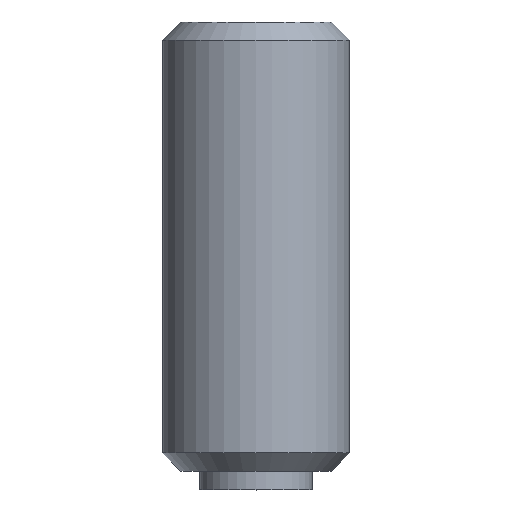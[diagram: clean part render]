
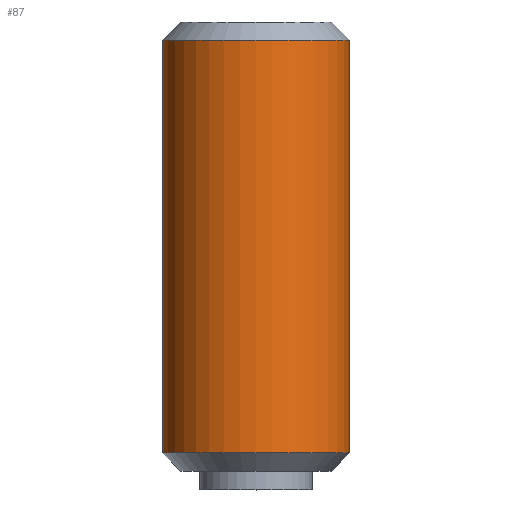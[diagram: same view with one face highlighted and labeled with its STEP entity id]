
A CAD part, top view. The second image highlights one B-rep face of the part: STEP entity #87.
In plain terms, the highlighted cylindrical face has radius 2.5 mm (diameter 5 mm), a full revolution.
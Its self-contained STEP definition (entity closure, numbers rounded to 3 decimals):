
#87 = ADVANCED_FACE( '', ( #118, #119 ), #120, .T. );
#118 = FACE_OUTER_BOUND( '', #152, .T. );
#119 = FACE_OUTER_BOUND( '', #153, .T. );
#120 = CYLINDRICAL_SURFACE( '', #154, 2.5 );
#152 = EDGE_LOOP( '', ( #238 ) );
#153 = EDGE_LOOP( '', ( #239 ) );
#154 = AXIS2_PLACEMENT_3D( '', #240, #241, #242 );
#238 = ORIENTED_EDGE( '', *, *, #270, .F. );
#239 = ORIENTED_EDGE( '', *, *, #271, .T. );
#240 = CARTESIAN_POINT( '', ( 0., 0., 0. ) );
#241 = DIRECTION( '', ( 0., 1., 0. ) );
#242 = DIRECTION( '', ( 0., 0., -1. ) );
#270 = EDGE_CURVE( '', #310, #310, #311, .T. );
#271 = EDGE_CURVE( '', #312, #312, #313, .T. );
#310 = VERTEX_POINT( '', #370 );
#311 = CIRCLE( '', #371, 2.5 );
#312 = VERTEX_POINT( '', #372 );
#313 = CIRCLE( '', #373, 2.5 );
#370 = CARTESIAN_POINT( '', ( 0., 0.991, -2.5 ) );
#371 = AXIS2_PLACEMENT_3D( '', #404, #405, #406 );
#372 = CARTESIAN_POINT( '', ( 0., 12.01, -2.5 ) );
#373 = AXIS2_PLACEMENT_3D( '', #407, #408, #409 );
#404 = CARTESIAN_POINT( '', ( 0., 0.991, 0. ) );
#405 = DIRECTION( '', ( 0., -1., 0. ) );
#406 = DIRECTION( '', ( 0., 0., -1. ) );
#407 = CARTESIAN_POINT( '', ( 0., 12.01, 0. ) );
#408 = DIRECTION( '', ( 0., -1., 0. ) );
#409 = DIRECTION( '', ( 0., 0., -1. ) );
